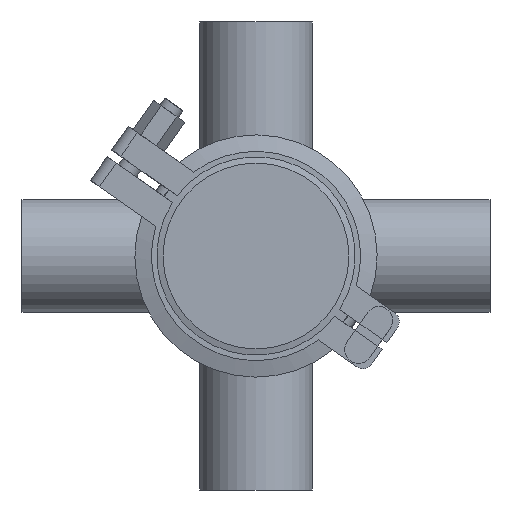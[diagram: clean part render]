
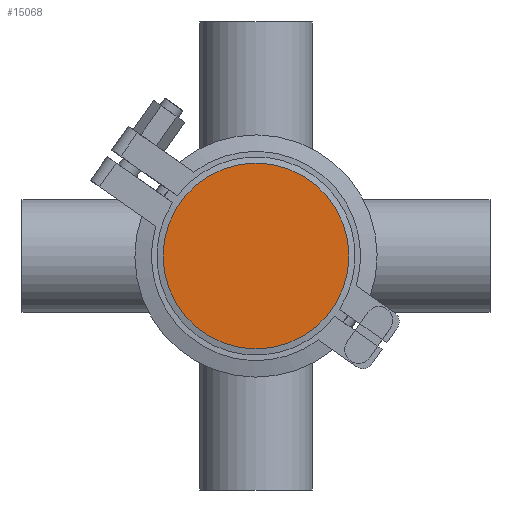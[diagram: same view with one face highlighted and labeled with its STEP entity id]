
A CAD part, front view. The second image highlights one B-rep face of the part: STEP entity #15068.
In plain terms, the highlighted planar face has unit normal (0, -1, 0).
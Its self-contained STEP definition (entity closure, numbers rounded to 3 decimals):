
#782 = DIRECTION ( 'NONE',  ( 0., 1., 0. ) ) ;
#1759 = AXIS2_PLACEMENT_3D ( 'NONE', #6552, #782, #5254 ) ;
#2370 = CARTESIAN_POINT ( 'NONE',  ( -33.75, 0., 0. ) ) ;
#3574 = AXIS2_PLACEMENT_3D ( 'NONE', #2370, #13194, #16455 ) ;
#5254 = DIRECTION ( 'NONE',  ( 0., 0., 1. ) ) ;
#5818 = EDGE_CURVE ( 'NONE', #15153, #15153, #16654, .T. ) ;
#6552 = CARTESIAN_POINT ( 'NONE',  ( 0., 0., 0. ) ) ;
#10258 = PLANE ( 'NONE',  #3574 ) ;
#13029 = ORIENTED_EDGE ( 'NONE', *, *, #5818, .F. ) ;
#13194 = DIRECTION ( 'NONE',  ( 0., -1., 0. ) ) ;
#14764 = CARTESIAN_POINT ( 'NONE',  ( 0., 0., 33.75 ) ) ;
#14817 = FACE_OUTER_BOUND ( 'NONE', #15980, .T. ) ;
#15068 = ADVANCED_FACE ( 'NONE', ( #14817 ), #10258, .T. ) ;
#15153 = VERTEX_POINT ( 'NONE', #14764 ) ;
#15980 = EDGE_LOOP ( 'NONE', ( #13029 ) ) ;
#16455 = DIRECTION ( 'NONE',  ( 0., 0., -1. ) ) ;
#16654 = CIRCLE ( 'NONE', #1759, 33.75 ) ;
